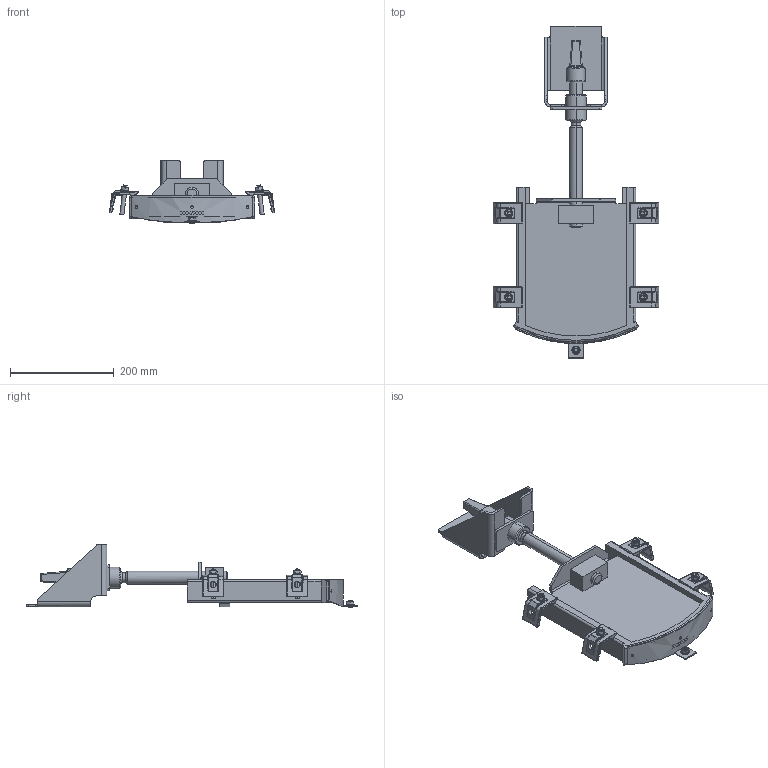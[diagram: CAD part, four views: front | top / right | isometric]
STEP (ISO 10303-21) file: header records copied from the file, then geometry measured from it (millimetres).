
FILE_DESCRIPTION (( 'STEP AP214' ), '1' );
FILE_NAME ('LW 150 Schacht1200 geschr..STEP', '2022-05-19T08:44:13', ( '' ), ( '' ), 'SwSTEP 2.0', 'SolidWorks 2021', '' );
FILE_SCHEMA (( 'AUTOMOTIVE_DESIGN' ));
Length unit declared in the file: millimetre
Products named in the file (1): LW 150 Schacht1200 geschr.
Bounding box: 319.54 x 640 x 122.98 mm (x, y, z)
Volume: 1538179.7 mm3; surface area: 427468.5 mm2
Topology: 1 solids, 5 shells, 1008 faces, 2451 edges, 1435 vertices
Faces by surface type: cylinder 321, plane 281, bspline 214, cone 76, sphere 60, torus 56
Entity records: 51049 total; most frequent: CARTESIAN_POINT 18430, ORIENTED_EDGE 4782, DIRECTION 4018, EDGE_CURVE 2391, AXIS2_PLACEMENT_3D 1559, VERTEX_POINT 1427, EDGE_LOOP 1068, UNCERTAINTY_MEASURE_WITH_UNIT 1010
